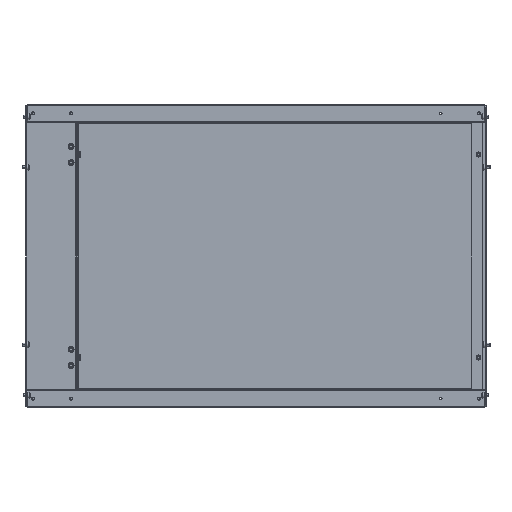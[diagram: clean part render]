
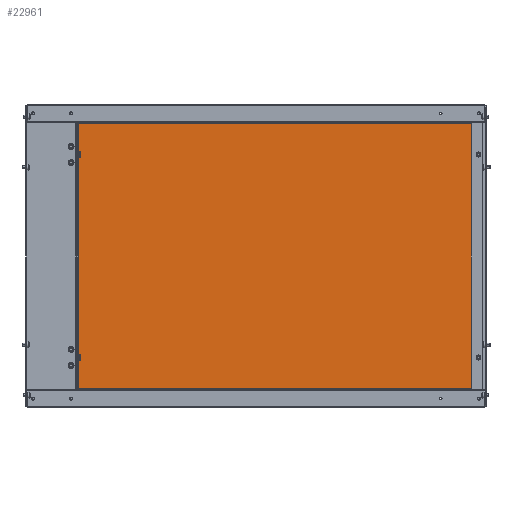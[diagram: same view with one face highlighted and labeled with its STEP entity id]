
A CAD part, left-side view. The second image highlights one B-rep face of the part: STEP entity #22961.
In plain terms, the highlighted planar face has unit normal (-1, 0, 0).
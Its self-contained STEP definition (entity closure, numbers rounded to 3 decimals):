
#417 = EDGE_LOOP ( 'NONE', ( #1003, #24069, #16275, #6594 ) ) ;
#1003 = ORIENTED_EDGE ( 'NONE', *, *, #7846, .T. ) ;
#2346 = DIRECTION ( 'NONE',  ( 0., 1., 0. ) ) ;
#3554 = AXIS2_PLACEMENT_3D ( 'NONE', #29236, #17185, #14952 ) ;
#3789 = CARTESIAN_POINT ( 'NONE',  ( -571.999, 795.671, 756.792 ) ) ;
#5316 = LINE ( 'NONE', #9896, #20174 ) ;
#5704 = CARTESIAN_POINT ( 'NONE',  ( -571.999, 20.171, 1017.292 ) ) ;
#6181 = DIRECTION ( 'NONE',  ( 0., 0., -1. ) ) ;
#6594 = ORIENTED_EDGE ( 'NONE', *, *, #17494, .T. ) ;
#6650 = CARTESIAN_POINT ( 'NONE',  ( -571.999, 795.671, 1017.292 ) ) ;
#7028 = VECTOR ( 'NONE', #6181, 1000. ) ;
#7795 = LINE ( 'NONE', #15658, #11027 ) ;
#7846 = EDGE_CURVE ( 'NONE', #24116, #12522, #5316, .T. ) ;
#7941 = DIRECTION ( 'NONE',  ( 0., -1., 0. ) ) ;
#9449 = VERTEX_POINT ( 'NONE', #3789 ) ;
#9896 = CARTESIAN_POINT ( 'NONE',  ( -571.999, 407.921, 1277.792 ) ) ;
#11027 = VECTOR ( 'NONE', #7941, 1000. ) ;
#11606 = EDGE_CURVE ( 'NONE', #9449, #31217, #7795, .T. ) ;
#11761 = CARTESIAN_POINT ( 'NONE',  ( -571.999, 20.171, 1277.792 ) ) ;
#12522 = VERTEX_POINT ( 'NONE', #20468 ) ;
#13267 = LINE ( 'NONE', #6650, #7028 ) ;
#14952 = DIRECTION ( 'NONE',  ( 0., 1., 0. ) ) ;
#15658 = CARTESIAN_POINT ( 'NONE',  ( -571.999, 407.921, 756.792 ) ) ;
#16275 = ORIENTED_EDGE ( 'NONE', *, *, #11606, .T. ) ;
#17185 = DIRECTION ( 'NONE',  ( -1., 0., 0. ) ) ;
#17494 = EDGE_CURVE ( 'NONE', #31217, #24116, #27830, .T. ) ;
#19554 = FACE_OUTER_BOUND ( 'NONE', #417, .T. ) ;
#19916 = VECTOR ( 'NONE', #22780, 1000. ) ;
#20174 = VECTOR ( 'NONE', #2346, 1000. ) ;
#20468 = CARTESIAN_POINT ( 'NONE',  ( -571.999, 795.671, 1277.792 ) ) ;
#22705 = EDGE_CURVE ( 'NONE', #12522, #9449, #13267, .T. ) ;
#22780 = DIRECTION ( 'NONE',  ( 0., 0., 1. ) ) ;
#22961 = ADVANCED_FACE ( 'NONE', ( #19554 ), #26988, .T. ) ;
#24069 = ORIENTED_EDGE ( 'NONE', *, *, #22705, .T. ) ;
#24116 = VERTEX_POINT ( 'NONE', #11761 ) ;
#26988 = PLANE ( 'NONE',  #3554 ) ;
#27830 = LINE ( 'NONE', #5704, #19916 ) ;
#28865 = CARTESIAN_POINT ( 'NONE',  ( -571.999, 20.171, 756.792 ) ) ;
#29236 = CARTESIAN_POINT ( 'NONE',  ( -571.999, 407.921, 1017.292 ) ) ;
#31217 = VERTEX_POINT ( 'NONE', #28865 ) ;
